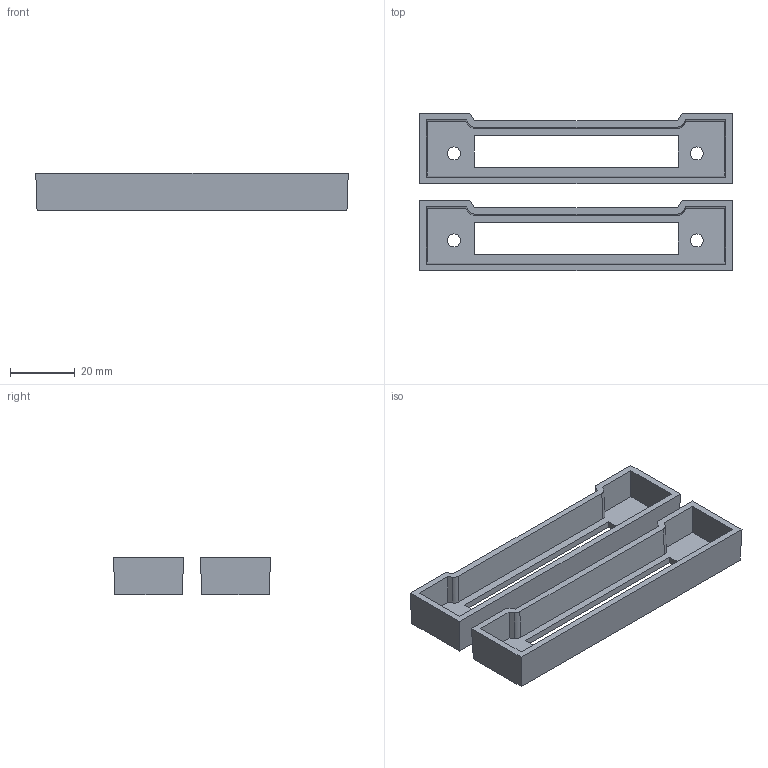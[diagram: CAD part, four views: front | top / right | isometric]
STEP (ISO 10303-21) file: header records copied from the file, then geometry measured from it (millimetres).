
FILE_DESCRIPTION(('FreeCAD Model'),'2;1');
FILE_NAME('Open CASCADE Shape Model','2023-09-06T18:15:17',(''),(''), 'Open CASCADE STEP processor 7.6','FreeCAD','Unknown');
FILE_SCHEMA(('AUTOMOTIVE_DESIGN { 1 0 10303 214 1 1 1 1 }'));
Length unit declared in the file: millimetre
Products named in the file (3): _03_Plus1_Outer_Model_250823; Cartridge_Mount_Locator; Pocket010
Assembly tree (2 placements, depth 2):
  _03_Plus1_Outer_Model_250823
    Cartridge_Mount_Locator
    Pocket010
Bounding box: 96.3 x 48.4 x 11.5 mm (x, y, z)
Volume: 13564.2 mm3; surface area: 15197.5 mm2
Topology: 2 solids, 2 shells, 54 faces, 144 edges, 96 vertices
Faces by surface type: plane 30, bspline 20, cylinder 4
Full cylindrical faces by diameter (mm): 4 x4
Entity records: 4510 total; most frequent: CARTESIAN_POINT 1793, DIRECTION 390, LINE 296, VECTOR 296, ORIENTED_EDGE 288, PCURVE 288, DEFINITIONAL_REPRESENTATION 288, EDGE_CURVE 144
